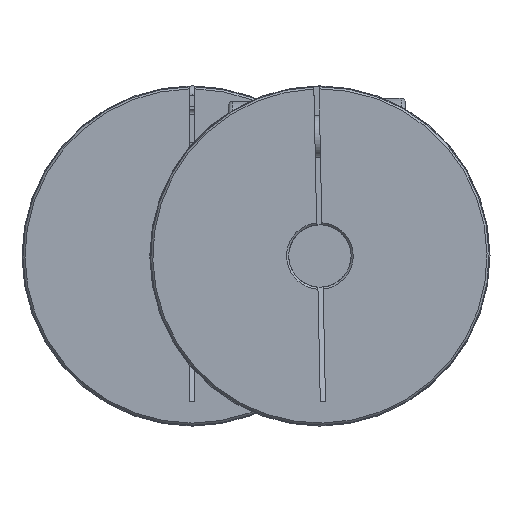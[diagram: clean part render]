
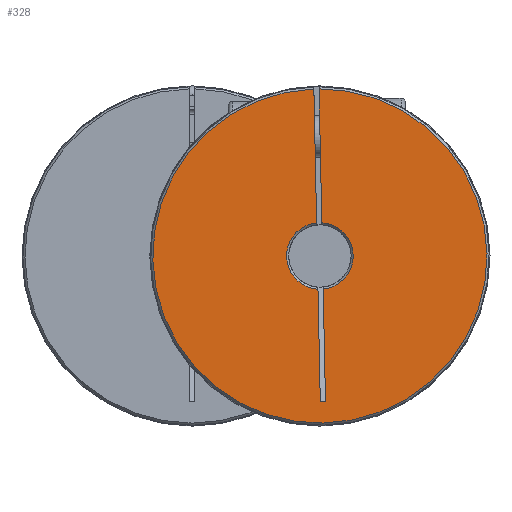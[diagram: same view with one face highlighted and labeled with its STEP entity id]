
A CAD part, left-side view. The second image highlights one B-rep face of the part: STEP entity #328.
In plain terms, the highlighted planar face has unit normal (-1, 0, 0).
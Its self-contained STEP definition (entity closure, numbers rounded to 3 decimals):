
#328 = ADVANCED_FACE( 'NONE', ( #593 ), #594, .F. );
#593 = FACE_OUTER_BOUND( '', #948, .T. );
#594 = PLANE( '', #949 );
#948 = EDGE_LOOP( '', ( #1341, #1342, #1343, #1344, #1345, #1346, #1347, #1348 ) );
#949 = AXIS2_PLACEMENT_3D( '', #1349, #1350, #1351 );
#1341 = ORIENTED_EDGE( '', *, *, #2005, .T. );
#1342 = ORIENTED_EDGE( '', *, *, #2006, .T. );
#1343 = ORIENTED_EDGE( '', *, *, #2007, .T. );
#1344 = ORIENTED_EDGE( '', *, *, #2008, .T. );
#1345 = ORIENTED_EDGE( '', *, *, #2009, .F. );
#1346 = ORIENTED_EDGE( '', *, *, #2010, .T. );
#1347 = ORIENTED_EDGE( '', *, *, #2001, .F. );
#1348 = ORIENTED_EDGE( '', *, *, #2011, .T. );
#1349 = CARTESIAN_POINT( '', ( 0., 16.25, 0. ) );
#1350 = DIRECTION( '', ( 1., 0., 0. ) );
#1351 = DIRECTION( '', ( 0., 1., 0. ) );
#2001 = EDGE_CURVE( 'NONE', #2201, #2202, #2203, .F. );
#2005 = EDGE_CURVE( 'NONE', #2209, #2210, #2211, .T. );
#2006 = EDGE_CURVE( 'NONE', #2210, #2212, #2213, .T. );
#2007 = EDGE_CURVE( 'NONE', #2212, #2214, #2215, .T. );
#2008 = EDGE_CURVE( 'NONE', #2214, #2216, #2217, .F. );
#2009 = EDGE_CURVE( 'NONE', #2218, #2216, #2219, .F. );
#2010 = EDGE_CURVE( 'NONE', #2218, #2202, #2220, .T. );
#2011 = EDGE_CURVE( 'NONE', #2201, #2209, #2221, .T. );
#2201 = VERTEX_POINT( 'NONE', #2450 );
#2202 = VERTEX_POINT( 'NONE', #2451 );
#2203 = LINE( '', #2452, #2453 );
#2209 = VERTEX_POINT( 'NONE', #2463 );
#2210 = VERTEX_POINT( 'NONE', #2464 );
#2211 = LINE( '', #2465, #2466 );
#2212 = VERTEX_POINT( 'NONE', #2467 );
#2213 = CIRCLE( '', #2468, 3.2 );
#2214 = VERTEX_POINT( 'NONE', #2469 );
#2215 = LINE( '', #2470, #2471 );
#2216 = VERTEX_POINT( 'NONE', #2472 );
#2217 = CIRCLE( '', #2473, 16.05 );
#2218 = VERTEX_POINT( 'NONE', #2474 );
#2219 = LINE( '', #2475, #2476 );
#2220 = CIRCLE( '', #2477, 3.2 );
#2221 = LINE( '', #2478, #2479 );
#2450 = CARTESIAN_POINT( '', ( 0., -0.25, -13.976 ) );
#2451 = CARTESIAN_POINT( '', ( 0., -0.25, -3.19 ) );
#2452 = CARTESIAN_POINT( '', ( 0., -0.25, 7. ) );
#2453 = VECTOR( '', #2861, 1000. );
#2463 = CARTESIAN_POINT( '', ( 0., 0.25, -13.976 ) );
#2464 = CARTESIAN_POINT( '', ( 0., 0.25, -3.19 ) );
#2465 = CARTESIAN_POINT( '', ( 0., 0.25, 0. ) );
#2466 = VECTOR( '', #2866, 1000. );
#2467 = CARTESIAN_POINT( '', ( 0., 0.25, 3.19 ) );
#2468 = AXIS2_PLACEMENT_3D( '', #2867, #2868, #2869 );
#2469 = CARTESIAN_POINT( '', ( 0., 0.25, 16.048 ) );
#2470 = CARTESIAN_POINT( '', ( 0., 0.25, 0. ) );
#2471 = VECTOR( '', #2870, 1000. );
#2472 = CARTESIAN_POINT( '', ( 0., -0.25, 16.048 ) );
#2473 = AXIS2_PLACEMENT_3D( '', #2871, #2872, #2873 );
#2474 = CARTESIAN_POINT( '', ( 0., -0.25, 3.19 ) );
#2475 = CARTESIAN_POINT( '', ( 0., -0.25, 7. ) );
#2476 = VECTOR( '', #2874, 1000. );
#2477 = AXIS2_PLACEMENT_3D( '', #2875, #2876, #2877 );
#2478 = CARTESIAN_POINT( '', ( 0., -0.25, -13.976 ) );
#2479 = VECTOR( '', #2878, 1000. );
#2861 = DIRECTION( '', ( 0., 0., -1. ) );
#2866 = DIRECTION( '', ( 0., 0., 1. ) );
#2867 = CARTESIAN_POINT( '', ( 0., 0., 0. ) );
#2868 = DIRECTION( '', ( 1., 0., 0. ) );
#2869 = DIRECTION( '', ( 0., 0., -1. ) );
#2870 = DIRECTION( '', ( 0., 0., 1. ) );
#2871 = CARTESIAN_POINT( '', ( 0., 0., 0. ) );
#2872 = DIRECTION( '', ( 1., 0., 0. ) );
#2873 = DIRECTION( '', ( 0., 0., -1. ) );
#2874 = DIRECTION( '', ( 0., 0., -1. ) );
#2875 = CARTESIAN_POINT( '', ( 0., 0., 0. ) );
#2876 = DIRECTION( '', ( 1., 0., 0. ) );
#2877 = DIRECTION( '', ( 0., 0., -1. ) );
#2878 = DIRECTION( '', ( 0., 1., 0. ) );
